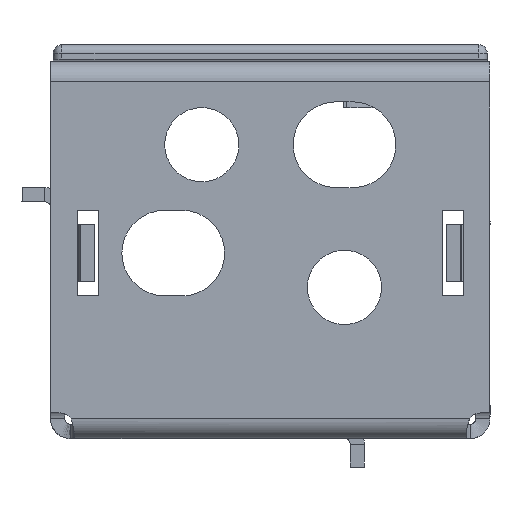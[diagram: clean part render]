
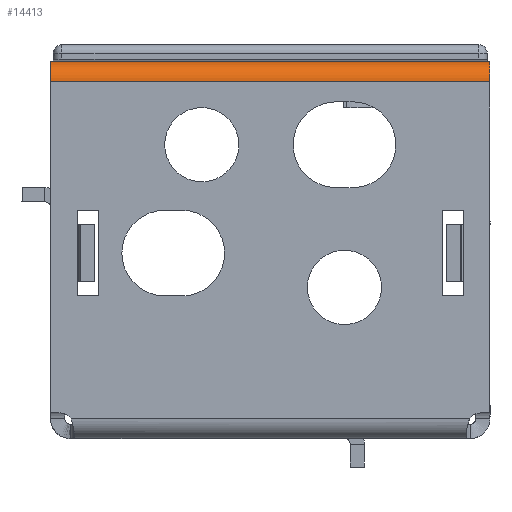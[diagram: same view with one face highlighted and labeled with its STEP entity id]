
A CAD part, front view. The second image highlights one B-rep face of the part: STEP entity #14413.
In plain terms, the highlighted cylindrical face has radius 3.5 mm (diameter 7 mm), a partial arc.
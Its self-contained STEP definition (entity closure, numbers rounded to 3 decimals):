
#371 = CIRCLE ( 'NONE', #2018, 3.5 ) ;
#1181 = CARTESIAN_POINT ( 'NONE',  ( -38.582, 3.5, 62.5 ) ) ;
#1458 = CARTESIAN_POINT ( 'NONE',  ( 0., 3.5, 66. ) ) ;
#1698 = VECTOR ( 'NONE', #4100, 1000. ) ;
#2018 = AXIS2_PLACEMENT_3D ( 'NONE', #10375, #2403, #19588 ) ;
#2403 = DIRECTION ( 'NONE',  ( -1., 0., 0. ) ) ;
#2449 = CYLINDRICAL_SURFACE ( 'NONE', #17370, 3.5 ) ;
#2463 = EDGE_CURVE ( 'NONE', #7064, #5071, #12122, .T. ) ;
#3674 = CIRCLE ( 'NONE', #15229, 3.5 ) ;
#4100 = DIRECTION ( 'NONE',  ( -1., 0., 0. ) ) ;
#4110 = EDGE_CURVE ( 'NONE', #4518, #5071, #371, .T. ) ;
#4202 = EDGE_CURVE ( 'NONE', #7064, #16151, #3674, .T. ) ;
#4244 = DIRECTION ( 'NONE',  ( 0., 0., -1. ) ) ;
#4518 = VERTEX_POINT ( 'NONE', #16182 ) ;
#5071 = VERTEX_POINT ( 'NONE', #1458 ) ;
#5537 = DIRECTION ( 'NONE',  ( 1., 0., 0. ) ) ;
#5747 = DIRECTION ( 'NONE',  ( 0., 0., -1. ) ) ;
#7064 = VERTEX_POINT ( 'NONE', #12253 ) ;
#7276 = DIRECTION ( 'NONE',  ( -1., 0., 0. ) ) ;
#7352 = DIRECTION ( 'NONE',  ( 1., 0., 0. ) ) ;
#7484 = CARTESIAN_POINT ( 'NONE',  ( 77., 0., 62.5 ) ) ;
#7736 = VECTOR ( 'NONE', #7276, 1000. ) ;
#9234 = CARTESIAN_POINT ( 'NONE',  ( 77., 0., 62.5 ) ) ;
#10179 = CARTESIAN_POINT ( 'NONE',  ( 0., 3.5, 66. ) ) ;
#10375 = CARTESIAN_POINT ( 'NONE',  ( 0., 3.5, 62.5 ) ) ;
#10722 = ORIENTED_EDGE ( 'NONE', *, *, #4110, .F. ) ;
#12122 = LINE ( 'NONE', #10179, #7736 ) ;
#12253 = CARTESIAN_POINT ( 'NONE',  ( 77., 3.5, 66. ) ) ;
#12572 = EDGE_CURVE ( 'NONE', #16151, #4518, #18268, .T. ) ;
#14413 = ADVANCED_FACE ( 'NONE', ( #16383 ), #2449, .T. ) ;
#14438 = EDGE_LOOP ( 'NONE', ( #19893, #17769, #17026, #10722 ) ) ;
#15214 = CARTESIAN_POINT ( 'NONE',  ( 77., 3.5, 62.5 ) ) ;
#15229 = AXIS2_PLACEMENT_3D ( 'NONE', #15214, #7352, #4244 ) ;
#16151 = VERTEX_POINT ( 'NONE', #9234 ) ;
#16182 = CARTESIAN_POINT ( 'NONE',  ( 0., 0., 62.5 ) ) ;
#16383 = FACE_OUTER_BOUND ( 'NONE', #14438, .T. ) ;
#17026 = ORIENTED_EDGE ( 'NONE', *, *, #2463, .T. ) ;
#17370 = AXIS2_PLACEMENT_3D ( 'NONE', #1181, #5537, #5747 ) ;
#17769 = ORIENTED_EDGE ( 'NONE', *, *, #4202, .F. ) ;
#18268 = LINE ( 'NONE', #7484, #1698 ) ;
#19588 = DIRECTION ( 'NONE',  ( 0., 0., -1. ) ) ;
#19893 = ORIENTED_EDGE ( 'NONE', *, *, #12572, .F. ) ;
